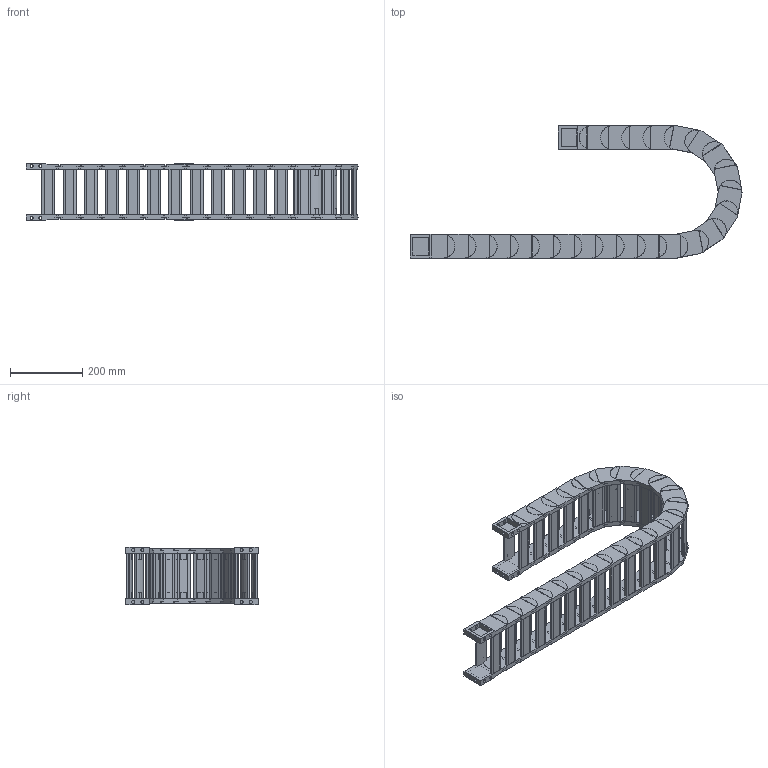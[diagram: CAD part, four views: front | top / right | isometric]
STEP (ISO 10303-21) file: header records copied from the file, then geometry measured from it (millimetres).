
FILE_DESCRIPTION((''),'2;1');
FILE_NAME('HD45-R150-ZPT_ASM','2022-06-20T20:03:06',('admin'),(''),'CREO PARAMETRIC BY PTC INC, 2021164','CREO PARAMETRIC BY PTC INC, 2021164','');
FILE_SCHEMA(('CONFIG_CONTROL_DESIGN','GEOMETRIC_VALIDATION_PROPERTIES_MIM'));
Length unit declared in the file: millimetre
Products named in the file (6): HD45-585; 45-500001; HD45_ASM; H45-T1-G; H45-T2-G; HD45-R150-ZPT_ASM
Assembly tree (29 placements, depth 3):
  HD45-R150-ZPT_ASM
    HD45_ASM  x23
      HD45-585
      45-500001
    H45-T1-G
    H45-T2-G
    45-500001  x2
Bounding box: 916.94 x 365 x 158.4 mm (x, y, z)
Volume: 4609703.9 mm3; surface area: 1556698.1 mm2
Topology: 100 solids, 100 shells, 1942 faces, 5198 edges, 3560 vertices
Faces by surface type: plane 1276, cylinder 666
Entity records: 8666 total; most frequent: CARTESIAN_POINT 1398, DIRECTION 1388, ORIENTED_EDGE 1276, EDGE_CURVE 638, AXIS2_PLACEMENT_3D 483, VERTEX_POINT 432, VECTOR 422, LINE 422
